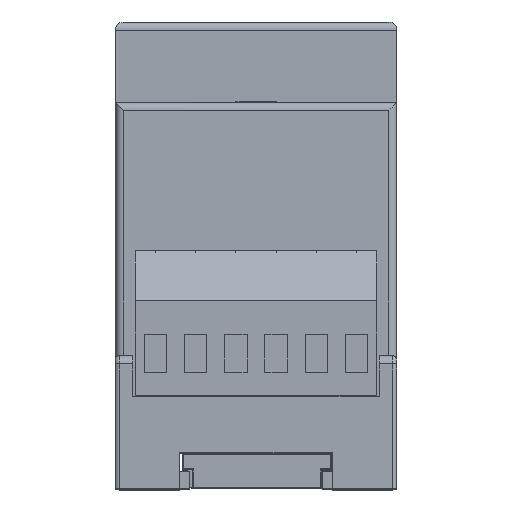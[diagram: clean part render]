
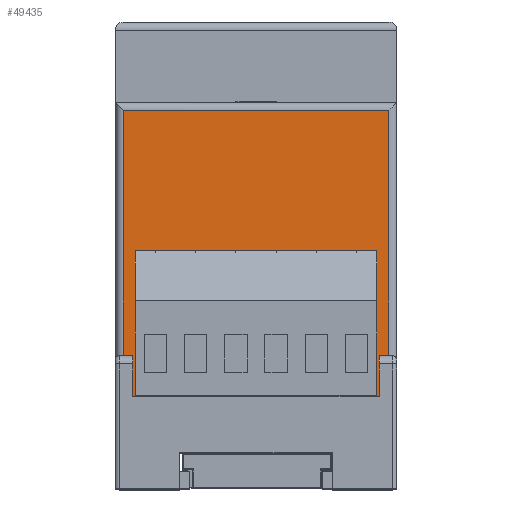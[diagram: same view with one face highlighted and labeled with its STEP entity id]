
A CAD part, top view. The second image highlights one B-rep face of the part: STEP entity #49435.
In plain terms, the highlighted planar face has unit normal (0, 0, 1).
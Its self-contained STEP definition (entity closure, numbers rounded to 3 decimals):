
#722 = VECTOR ( 'NONE', #9911, 1000. ) ;
#762 = ORIENTED_EDGE ( 'NONE', *, *, #52375, .T. ) ;
#2446 = DIRECTION ( 'NONE',  ( -1., 0., 0. ) ) ;
#3229 = VECTOR ( 'NONE', #53201, 1000. ) ;
#3393 = CARTESIAN_POINT ( 'NONE',  ( 1.5, -9., 0. ) ) ;
#3444 = FACE_OUTER_BOUND ( 'NONE', #26352, .T. ) ;
#3889 = VERTEX_POINT ( 'NONE', #31394 ) ;
#3947 = CARTESIAN_POINT ( 'NONE',  ( 33.5, -9., 0. ) ) ;
#4532 = LINE ( 'NONE', #23179, #3229 ) ;
#4637 = CARTESIAN_POINT ( 'NONE',  ( 34., 31.5, 0. ) ) ;
#5796 = ORIENTED_EDGE ( 'NONE', *, *, #48296, .T. ) ;
#5838 = EDGE_CURVE ( 'NONE', #31944, #45519, #7276, .T. ) ;
#6526 = VERTEX_POINT ( 'NONE', #3393 ) ;
#6834 = CARTESIAN_POINT ( 'NONE',  ( 1., 31.5, 0. ) ) ;
#6977 = VERTEX_POINT ( 'NONE', #30519 ) ;
#6980 = EDGE_CURVE ( 'NONE', #21139, #51861, #50501, .T. ) ;
#7276 = LINE ( 'NONE', #22825, #722 ) ;
#9501 = LINE ( 'NONE', #11469, #52499 ) ;
#9582 = DIRECTION ( 'NONE',  ( 0., -1., 0. ) ) ;
#9911 = DIRECTION ( 'NONE',  ( 0.707, 0.707, 0. ) ) ;
#11469 = CARTESIAN_POINT ( 'NONE',  ( 33.5, -5., 0. ) ) ;
#12087 = EDGE_CURVE ( 'NONE', #49381, #6977, #44697, .T. ) ;
#12802 = VECTOR ( 'NONE', #2446, 1000. ) ;
#13082 = ORIENTED_EDGE ( 'NONE', *, *, #5838, .T. ) ;
#14144 = AXIS2_PLACEMENT_3D ( 'NONE', #34891, #14308, #43617 ) ;
#14308 = DIRECTION ( 'NONE',  ( 0., 0., -1. ) ) ;
#18295 = LINE ( 'NONE', #42929, #23491 ) ;
#19066 = CARTESIAN_POINT ( 'NONE',  ( 0., 30.5, 0. ) ) ;
#19086 = CARTESIAN_POINT ( 'NONE',  ( 3., -5., 0. ) ) ;
#19433 = LINE ( 'NONE', #48456, #27854 ) ;
#20573 = EDGE_CURVE ( 'NONE', #25188, #45519, #4532, .T. ) ;
#21069 = DIRECTION ( 'NONE',  ( 0., 1., 0. ) ) ;
#21139 = VERTEX_POINT ( 'NONE', #3947 ) ;
#21844 = CARTESIAN_POINT ( 'NONE',  ( 32., -5., 0. ) ) ;
#22825 = CARTESIAN_POINT ( 'NONE',  ( 1.5, -6.5, 0. ) ) ;
#23179 = CARTESIAN_POINT ( 'NONE',  ( 1.5, -5., 0. ) ) ;
#23491 = VECTOR ( 'NONE', #9582, 1000. ) ;
#25140 = VECTOR ( 'NONE', #36551, 1000. ) ;
#25188 = VERTEX_POINT ( 'NONE', #21844 ) ;
#25667 = DIRECTION ( 'NONE',  ( 0.707, -0.707, 0. ) ) ;
#26352 = EDGE_LOOP ( 'NONE', ( #47247, #34479, #43457, #13082, #34222, #27416, #5796, #35349, #51715, #762 ) ) ;
#27416 = ORIENTED_EDGE ( 'NONE', *, *, #43374, .T. ) ;
#27854 = VECTOR ( 'NONE', #31666, 1000. ) ;
#30367 = EDGE_CURVE ( 'NONE', #31944, #6526, #18295, .T. ) ;
#30519 = CARTESIAN_POINT ( 'NONE',  ( 1., -9., 0. ) ) ;
#31394 = CARTESIAN_POINT ( 'NONE',  ( 34., 30.5, 0. ) ) ;
#31666 = DIRECTION ( 'NONE',  ( 1., 0., 0. ) ) ;
#31944 = VERTEX_POINT ( 'NONE', #46445 ) ;
#32832 = CARTESIAN_POINT ( 'NONE',  ( 33.5, -6.5, 0. ) ) ;
#33137 = LINE ( 'NONE', #4637, #42944 ) ;
#33736 = LINE ( 'NONE', #38455, #37683 ) ;
#34222 = ORIENTED_EDGE ( 'NONE', *, *, #20573, .F. ) ;
#34479 = ORIENTED_EDGE ( 'NONE', *, *, #46534, .T. ) ;
#34891 = CARTESIAN_POINT ( 'NONE',  ( 0., 31.5, 0. ) ) ;
#35069 = PLANE ( 'NONE',  #14144 ) ;
#35349 = ORIENTED_EDGE ( 'NONE', *, *, #6980, .T. ) ;
#36551 = DIRECTION ( 'NONE',  ( 0., -1., 0. ) ) ;
#37683 = VECTOR ( 'NONE', #25667, 1000. ) ;
#38455 = CARTESIAN_POINT ( 'NONE',  ( 32., -5., 0. ) ) ;
#39465 = VECTOR ( 'NONE', #42940, 1000. ) ;
#39653 = CARTESIAN_POINT ( 'NONE',  ( 1., 30.5, 0. ) ) ;
#40510 = EDGE_CURVE ( 'NONE', #51861, #3889, #33137, .T. ) ;
#42929 = CARTESIAN_POINT ( 'NONE',  ( 1.5, -5., 0. ) ) ;
#42940 = DIRECTION ( 'NONE',  ( 1., 0., 0. ) ) ;
#42944 = VECTOR ( 'NONE', #21069, 1000. ) ;
#43374 = EDGE_CURVE ( 'NONE', #25188, #49694, #33736, .T. ) ;
#43457 = ORIENTED_EDGE ( 'NONE', *, *, #30367, .F. ) ;
#43617 = DIRECTION ( 'NONE',  ( -1., 0., 0. ) ) ;
#44697 = LINE ( 'NONE', #6834, #25140 ) ;
#45519 = VERTEX_POINT ( 'NONE', #19086 ) ;
#46445 = CARTESIAN_POINT ( 'NONE',  ( 1.5, -6.5, 0. ) ) ;
#46534 = EDGE_CURVE ( 'NONE', #6977, #6526, #19433, .T. ) ;
#47008 = CARTESIAN_POINT ( 'NONE',  ( 34., -9., 0. ) ) ;
#47247 = ORIENTED_EDGE ( 'NONE', *, *, #12087, .T. ) ;
#47666 = CARTESIAN_POINT ( 'NONE',  ( 35., -9., 0. ) ) ;
#48296 = EDGE_CURVE ( 'NONE', #49694, #21139, #9501, .T. ) ;
#48456 = CARTESIAN_POINT ( 'NONE',  ( 1.5, -9., 0. ) ) ;
#49270 = LINE ( 'NONE', #19066, #12802 ) ;
#49381 = VERTEX_POINT ( 'NONE', #39653 ) ;
#49435 = ADVANCED_FACE ( 'NONE', ( #3444 ), #35069, .F. ) ;
#49694 = VERTEX_POINT ( 'NONE', #32832 ) ;
#50501 = LINE ( 'NONE', #47666, #39465 ) ;
#51715 = ORIENTED_EDGE ( 'NONE', *, *, #40510, .T. ) ;
#51861 = VERTEX_POINT ( 'NONE', #47008 ) ;
#52375 = EDGE_CURVE ( 'NONE', #3889, #49381, #49270, .T. ) ;
#52499 = VECTOR ( 'NONE', #53490, 1000. ) ;
#53201 = DIRECTION ( 'NONE',  ( -1., 0., 0. ) ) ;
#53490 = DIRECTION ( 'NONE',  ( 0., -1., 0. ) ) ;
